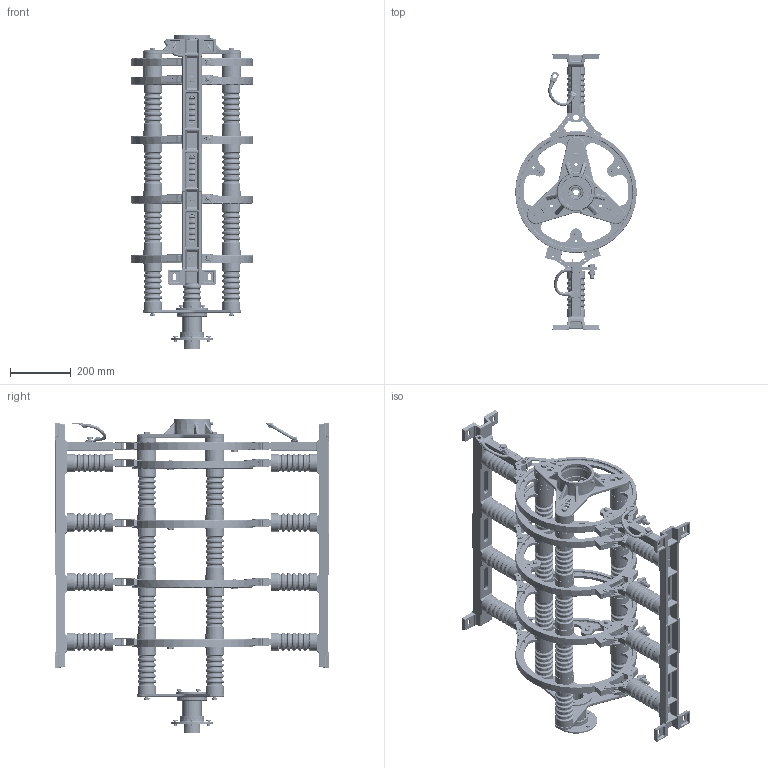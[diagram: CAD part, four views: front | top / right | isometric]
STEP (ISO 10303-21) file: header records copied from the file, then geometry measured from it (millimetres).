
FILE_DESCRIPTION(/* description */ (''),/* implementation_level */ '2;1');
FILE_NAME(/* name */ 'K:\NEMANJA\0700-6\CABLE REEL PART\0700-6\07 PSR\STP\77437 DB.stp',/* time_stamp */ '2017-12-01T12:07:58+01:00',/* author */ ('zeldjo01'),/* organization */ ('Hillmar Industries Ltd.'),/* preprocessor_version */ 'ST-DEVELOPER v16.1',/* originating_system */ 'Autodesk Inventor 2016',/* authorisation */ '');
FILE_SCHEMA (('AUTOMOTIVE_DESIGN { 1 0 10303 214 3 1 1 }'));
Products named in the file (1): 77437 PSR-15KV-5B-400A SLIPRING ASSEMBLY_Shrinkwrap_1
Bounding box: 399.91 x 906 x 1034.6 mm (x, y, z)
Volume: 17058066.4 mm3; surface area: 2564724.8 mm2
Topology: 4 solids, 45 shells, 5516 faces, 13112 edges, 7904 vertices
Faces by surface type: plane 1839, cylinder 1572, bspline 709, cone 634, torus 582, sphere 180
Full cylindrical faces by diameter (mm): 4 x20, 4.5 x20, 4.917 x4, 5 x90, 6.6 x4, 6.647 x13, 7.323 x7, 8 x7, 8.376 x55, 9 x7, 9.188 x5, 10 x13, 10.106 x7, 10.5 x9, 11 x20, 11.053 x7, 11.4 x7, 12 x17, 13 x9, 13.5 x4, 15.4 x5, 17.2 x7, 17.5 x3, 18 x1, 19 x5, 23 x17, 24 x9, 30 x1, 44.45 x6, 44.46 x6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
Entity records: 161488 total; most frequent: CARTESIAN_POINT 39135, DIRECTION 23816, ORIENTED_EDGE 22414, EDGE_CURVE 11209, AXIS2_PLACEMENT_3D 9444, EDGE_LOOP 7706, VERTEX_POINT 7619, STYLED_ITEM 5520
